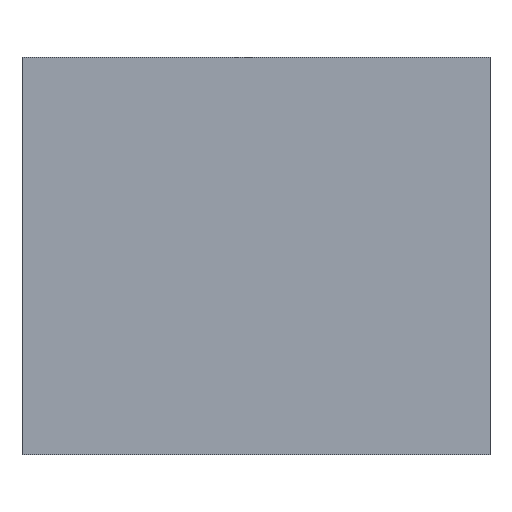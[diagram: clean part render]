
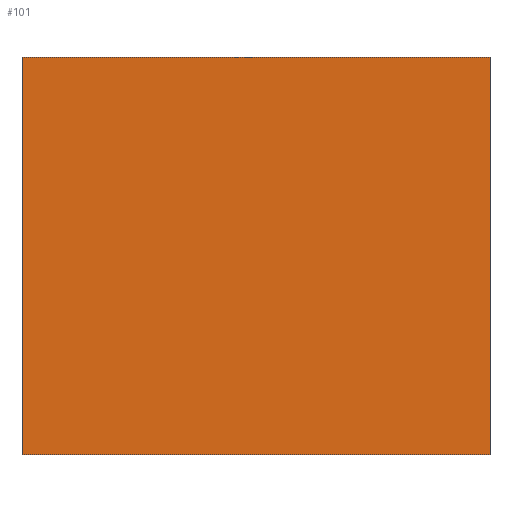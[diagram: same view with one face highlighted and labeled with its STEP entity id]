
A CAD part, left-side view. The second image highlights one B-rep face of the part: STEP entity #101.
In plain terms, the highlighted planar face has unit normal (-1, 0, 0).
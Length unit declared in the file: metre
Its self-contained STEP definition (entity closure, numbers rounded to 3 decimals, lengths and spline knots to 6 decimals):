
#24=ORIENTED_EDGE('',*,*,#46,.F.);
#25=ORIENTED_EDGE('',*,*,#39,.F.);
#26=ORIENTED_EDGE('',*,*,#47,.T.);
#27=ORIENTED_EDGE('',*,*,#44,.T.);
#39=EDGE_CURVE('',#51,#49,#59,.T.);
#44=EDGE_CURVE('',#55,#54,#64,.T.);
#46=EDGE_CURVE('',#49,#54,#66,.T.);
#47=EDGE_CURVE('',#51,#55,#67,.T.);
#49=VERTEX_POINT('',#153);
#51=VERTEX_POINT('',#157);
#54=VERTEX_POINT('',#167);
#55=VERTEX_POINT('',#169);
#59=LINE('',#158,#71);
#64=LINE('',#168,#76);
#66=LINE('',#172,#78);
#67=LINE('',#173,#79);
#71=VECTOR('',#130,1.);
#76=VECTOR('',#139,1.);
#78=VECTOR('',#143,1.);
#79=VECTOR('',#144,1.);
#83=EDGE_LOOP('',(#24,#25,#26,#27));
#89=FACE_BOUND('',#83,.T.);
#95=PLANE('',#120);
#101=ADVANCED_FACE('',(#89),#95,.T.);
#120=AXIS2_PLACEMENT_3D('',#171,#141,#142);
#130=DIRECTION('',(0.,0.,-1.));
#139=DIRECTION('',(0.,0.,-1.));
#141=DIRECTION('',(-1.,0.,0.));
#142=DIRECTION('',(0.,-1.,0.));
#143=DIRECTION('',(0.,1.,0.));
#144=DIRECTION('',(0.,1.,0.));
#153=CARTESIAN_POINT('',(-0.02,0.,0.));
#157=CARTESIAN_POINT('',(-0.02,0.,0.034));
#158=CARTESIAN_POINT('',(-0.02,0.,0.034));
#167=CARTESIAN_POINT('',(-0.02,0.04,0.));
#168=CARTESIAN_POINT('',(-0.02,0.04,0.034));
#169=CARTESIAN_POINT('',(-0.02,0.04,0.034));
#171=CARTESIAN_POINT('',(-0.02,0.02,0.034));
#172=CARTESIAN_POINT('',(-0.02,0.02,0.));
#173=CARTESIAN_POINT('',(-0.02,0.02,0.034));
